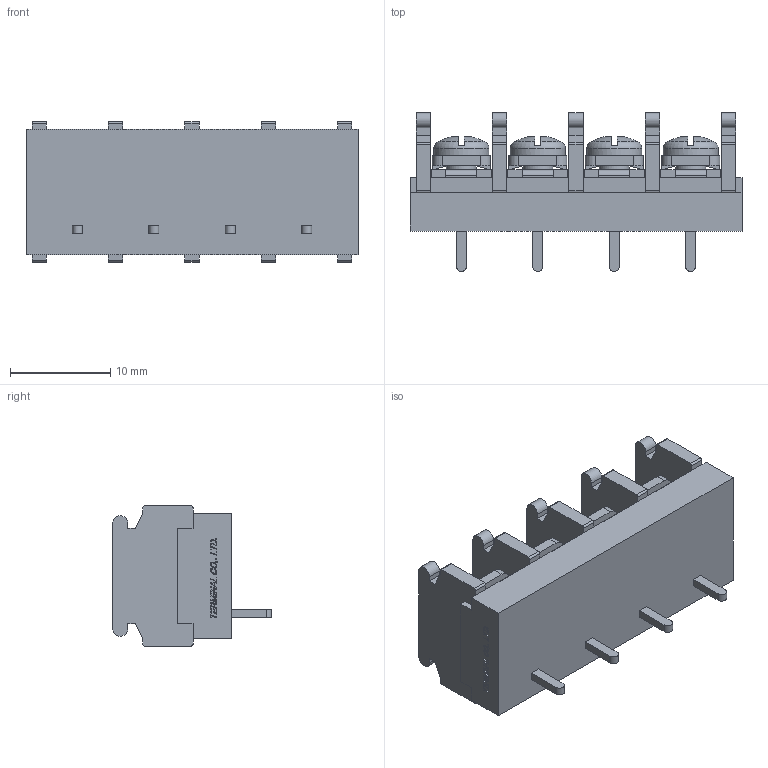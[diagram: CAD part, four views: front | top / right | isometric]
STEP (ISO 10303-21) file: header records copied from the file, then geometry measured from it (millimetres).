
FILE_DESCRIPTION(/* description */ ('Alibre Inc.'),/* implementation_level */ '2;1');
FILE_NAME(/* name */ 'export0',/* time_stamp */ '2015-10-23T19:25:11+09:00',/* author */ (''),/* organization */ (''),/* preprocessor_version */ 'ST-DEVELOPER v14',/* originating_system */ 'Alibre',/* authorisation */ '');
FILE_SCHEMA (('CONFIG_CONTROL_DESIGN'));
Length unit declared in the file: centimetre
Products named in the file (1): ID_1
Bounding box: 33.1 x 15.8 x 14 mm (x, y, z)
Volume: 3151.1 mm3; surface area: 3095 mm2
Topology: 1 solids, 1 shells, 858 faces, 2344 edges, 1544 vertices
Faces by surface type: plane 652, bspline 104, cylinder 70, cone 16, torus 8, sphere 8
Full cylindrical faces by diameter (mm): 3 x4, 5.5 x4
Entity records: 25993 total; most frequent: CARTESIAN_POINT 5919, ORIENTED_EDGE 4624, DIRECTION 3062, EDGE_CURVE 2312, VECTOR 1720, LINE 1720, VERTEX_POINT 1528, AXIS2_PLACEMENT_3D 975
